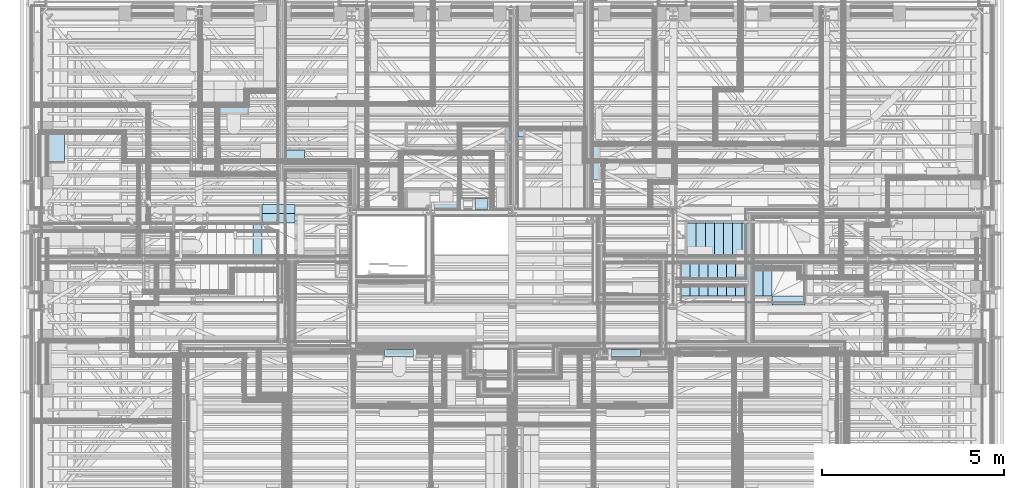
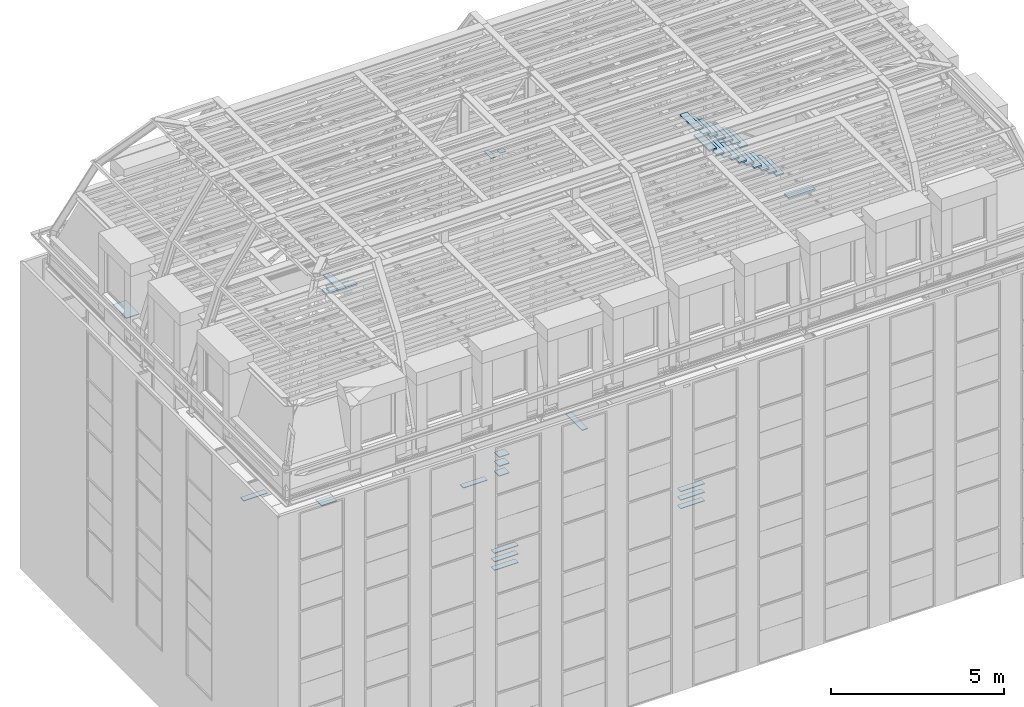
# One storey, part 97 of 183: 37 slabs.
"""IFC2X3 building model written with IfcOpenShell, lengths in metres."""

from ifc_helpers import new_model, entity, si_unit, converted_unit, derived_unit, money_unit, direction, frame, origin_with_axes, place, context, subcontext, project, spatial, faceted_brep, material, type_object, element, save


model = new_model("IFC2X3")

# Units and contexts
model_context = context("Model", 3, precision=1e-05, world=origin_with_axes(), true_north=direction((0.0, 1.0)))
body_context = subcontext(model_context, "Body", "Model", "MODEL_VIEW", scale=1.0)
ifc_project = project(units=[si_unit("LENGTHUNIT", "METRE"), si_unit("AREAUNIT", "SQUARE_METRE"), si_unit("VOLUMEUNIT", "CUBIC_METRE"), si_unit("ABSORBEDDOSEUNIT", "GRAY"), si_unit("AMOUNTOFSUBSTANCEUNIT", "MOLE"), si_unit("DOSEEQUIVALENTUNIT", "SIEVERT"), si_unit("ELECTRICCAPACITANCEUNIT", "FARAD"), si_unit("ELECTRICCHARGEUNIT", "COULOMB"), si_unit("ELECTRICCONDUCTANCEUNIT", "SIEMENS"), si_unit("ELECTRICCURRENTUNIT", "AMPERE"), si_unit("ELECTRICRESISTANCEUNIT", "OHM"), si_unit("ELECTRICVOLTAGEUNIT", "VOLT"), si_unit("ENERGYUNIT", "JOULE"), si_unit("FORCEUNIT", "NEWTON"), si_unit("FREQUENCYUNIT", "HERTZ"), si_unit("ILLUMINANCEUNIT", "LUX"), si_unit("INDUCTANCEUNIT", "HENRY"), si_unit("LUMINOUSFLUXUNIT", "LUMEN"), si_unit("LUMINOUSINTENSITYUNIT", "CANDELA"), si_unit("MAGNETICFLUXDENSITYUNIT", "TESLA"), si_unit("MAGNETICFLUXUNIT", "WEBER"), si_unit("MASSUNIT", "GRAM"), converted_unit("PLANEANGLEUNIT", "degree", entity("IfcReal", 0.0174532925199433), si_unit("PLANEANGLEUNIT", "RADIAN"), dimensions=[0, 0, 0, 0, 0, 0, 0]), si_unit("POWERUNIT", "WATT"), si_unit("PRESSUREUNIT", "PASCAL"), si_unit("RADIOACTIVITYUNIT", "BECQUEREL"), si_unit("SOLIDANGLEUNIT", "STERADIAN"), si_unit("THERMODYNAMICTEMPERATUREUNIT", "KELVIN"), si_unit("TIMEUNIT", "SECOND"), derived_unit("ACCELERATIONUNIT", [(si_unit("LENGTHUNIT", "METRE"), 1), (si_unit("TIMEUNIT", "SECOND"), -2)]), derived_unit("ANGULARVELOCITYUNIT", [(converted_unit("PLANEANGLEUNIT", "degree", entity("IfcReal", 0.0174532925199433), si_unit("PLANEANGLEUNIT", "RADIAN"), dimensions=[0, 0, 0, 0, 0, 0, 0]), 1), (si_unit("TIMEUNIT", "SECOND"), -1)]), derived_unit("CURVATUREUNIT", [(converted_unit("PLANEANGLEUNIT", "degree", entity("IfcReal", 0.0174532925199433), si_unit("PLANEANGLEUNIT", "RADIAN"), dimensions=[0, 0, 0, 0, 0, 0, 0]), 1), (si_unit("LENGTHUNIT", "METRE"), -1)]), derived_unit("DYNAMICVISCOSITYUNIT", [(si_unit("PRESSUREUNIT", "PASCAL"), 1), (si_unit("TIMEUNIT", "SECOND"), 1)]), derived_unit("HEATFLUXDENSITYUNIT", [(si_unit("POWERUNIT", "WATT"), 1), (si_unit("LENGTHUNIT", "METRE"), -2)]), derived_unit("HEATINGVALUEUNIT", [(si_unit("ENERGYUNIT", "JOULE"), 1), (si_unit("MASSUNIT", "GRAM"), -1)]), derived_unit("INTEGERCOUNTRATEUNIT", [(si_unit("TIMEUNIT", "SECOND"), -1)]), derived_unit("IONCONCENTRATIONUNIT", [(si_unit("MASSUNIT", "GRAM"), 1), (si_unit("VOLUMEUNIT", "CUBIC_METRE"), -1)]), derived_unit("ISOTHERMALMOISTURECAPACITYUNIT", [(si_unit("VOLUMEUNIT", "CUBIC_METRE"), 1), (si_unit("MASSUNIT", "GRAM"), -1)]), derived_unit("KINEMATICVISCOSITYUNIT", [(si_unit("AREAUNIT", "SQUARE_METRE"), 1), (si_unit("TIMEUNIT", "SECOND"), -1)]), derived_unit("LINEARFORCEUNIT", [(si_unit("FORCEUNIT", "NEWTON"), 1), (si_unit("LENGTHUNIT", "METRE"), -1)]), derived_unit("LINEARMOMENTUNIT", [(si_unit("FORCEUNIT", "NEWTON"), 1), (si_unit("LENGTHUNIT", "METRE"), -1)]), derived_unit("LINEARSTIFFNESSUNIT", [(si_unit("FORCEUNIT", "NEWTON"), 1), (si_unit("LENGTHUNIT", "METRE"), -1)]), derived_unit("LINEARVELOCITYUNIT", [(si_unit("LENGTHUNIT", "METRE"), 1), (si_unit("TIMEUNIT", "SECOND"), -1)]), derived_unit("LUMINOUSINTENSITYDISTRIBUTIONUNIT", [(si_unit("LUMINOUSINTENSITYUNIT", "CANDELA"), 1), (si_unit("LUMINOUSFLUXUNIT", "LUMEN"), -1)]), derived_unit("MASSDENSITYUNIT", [(si_unit("MASSUNIT", "GRAM"), 1), (si_unit("VOLUMEUNIT", "CUBIC_METRE"), -1)]), derived_unit("MASSFLOWRATEUNIT", [(si_unit("MASSUNIT", "GRAM"), 1), (si_unit("TIMEUNIT", "SECOND"), -1)]), derived_unit("MASSPERLENGTHUNIT", [(si_unit("MASSUNIT", "GRAM"), 1), (si_unit("LENGTHUNIT", "METRE"), -1)]), derived_unit("MODULUSOFELASTICITYUNIT", [(si_unit("FORCEUNIT", "NEWTON"), 1), (si_unit("AREAUNIT", "SQUARE_METRE"), -1)]), derived_unit("MODULUSOFLINEARSUBGRADEREACTIONUNIT", [(si_unit("FORCEUNIT", "NEWTON"), 1), (si_unit("LENGTHUNIT", "METRE"), -2)]), derived_unit("MODULUSOFROTATIONALSUBGRADEREACTIONUNIT", [(si_unit("FORCEUNIT", "NEWTON"), 1), (si_unit("LENGTHUNIT", "METRE"), 1)]), derived_unit("MODULUSOFSUBGRADEREACTIONUNIT", [(si_unit("FORCEUNIT", "NEWTON"), 1), (si_unit("VOLUMEUNIT", "CUBIC_METRE"), -1)]), derived_unit("MOISTUREDIFFUSIVITYUNIT", [(si_unit("VOLUMEUNIT", "CUBIC_METRE"), 1), (si_unit("TIMEUNIT", "SECOND"), -1)]), derived_unit("MOLECULARWEIGHTUNIT", [(si_unit("MASSUNIT", "GRAM"), 1), (si_unit("AMOUNTOFSUBSTANCEUNIT", "MOLE"), -1)]), derived_unit("PLANARFORCEUNIT", [(si_unit("FORCEUNIT", "NEWTON"), 1), (si_unit("LENGTHUNIT", "METRE"), -2)]), derived_unit("ROTATIONALFREQUENCYUNIT", [(si_unit("TIMEUNIT", "SECOND"), -1)]), derived_unit("ROTATIONALMASSUNIT", [(si_unit("MASSUNIT", "GRAM"), 1), (si_unit("LENGTHUNIT", "METRE"), 2)]), derived_unit("ROTATIONALSTIFFNESSUNIT", [(si_unit("FORCEUNIT", "NEWTON"), 1), (si_unit("LENGTHUNIT", "METRE"), 1), (converted_unit("PLANEANGLEUNIT", "degree", entity("IfcReal", 0.0174532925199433), si_unit("PLANEANGLEUNIT", "RADIAN"), dimensions=[0, 0, 0, 0, 0, 0, 0]), -1)]), derived_unit("SECTIONAREAINTEGRALUNIT", [(si_unit("LENGTHUNIT", "METRE"), 5)]), derived_unit("SECTIONMODULUSUNIT", [(si_unit("LENGTHUNIT", "METRE"), 3)]), derived_unit("SHEARMODULUSUNIT", [(si_unit("FORCEUNIT", "NEWTON"), 1), (si_unit("AREAUNIT", "SQUARE_METRE"), -1)]), derived_unit("SOUNDPOWERUNIT", [(si_unit("ENERGYUNIT", "JOULE"), 1), (si_unit("TIMEUNIT", "SECOND"), -1)]), derived_unit("SPECIFICHEATCAPACITYUNIT", [(si_unit("FORCEUNIT", "NEWTON"), 1), (si_unit("MASSUNIT", "GRAM"), -1), (si_unit("THERMODYNAMICTEMPERATUREUNIT", "KELVIN"), -1)]), derived_unit("TEMPERATUREGRADIENTUNIT", [(si_unit("THERMODYNAMICTEMPERATUREUNIT", "KELVIN"), 1), (si_unit("LENGTHUNIT", "METRE"), -1)]), derived_unit("THERMALADMITTANCEUNIT", [(si_unit("POWERUNIT", "WATT"), 1), (si_unit("AREAUNIT", "SQUARE_METRE"), -1), (si_unit("THERMODYNAMICTEMPERATUREUNIT", "KELVIN"), -1)]), derived_unit("THERMALCONDUCTANCEUNIT", [(si_unit("POWERUNIT", "WATT"), 1), (si_unit("LENGTHUNIT", "METRE"), -1), (si_unit("THERMODYNAMICTEMPERATUREUNIT", "KELVIN"), -1)]), derived_unit("THERMALEXPANSIONCOEFFICIENTUNIT", [(si_unit("THERMODYNAMICTEMPERATUREUNIT", "KELVIN"), -1)]), derived_unit("THERMALRESISTANCEUNIT", [(si_unit("AREAUNIT", "SQUARE_METRE"), 1), (si_unit("POWERUNIT", "WATT"), -1)]), derived_unit("THERMALTRANSMITTANCEUNIT", [(si_unit("POWERUNIT", "WATT"), 1), (si_unit("AREAUNIT", "SQUARE_METRE"), -1), (si_unit("THERMODYNAMICTEMPERATUREUNIT", "KELVIN"), -1)]), derived_unit("TORQUEUNIT", [(si_unit("FORCEUNIT", "NEWTON"), 1), (si_unit("LENGTHUNIT", "METRE"), 1)]), derived_unit("VAPORPERMEABILITYUNIT", [(si_unit("MASSUNIT", "GRAM"), 1), (si_unit("TIMEUNIT", "SECOND"), -1)]), derived_unit("VOLUMETRICFLOWRATEUNIT", [(si_unit("VOLUMEUNIT", "CUBIC_METRE"), 1), (si_unit("TIMEUNIT", "SECOND"), -1)]), derived_unit("WARPINGCONSTANTUNIT", [(si_unit("LENGTHUNIT", "METRE"), 6)]), derived_unit("WARPINGMOMENTUNIT", [(si_unit("FORCEUNIT", "NEWTON"), 1), (si_unit("LENGTHUNIT", "METRE"), 2)]), money_unit("GBP")], contexts=[model_context])

# Site, building, storey
site_placement = place(None, origin_with_axes())
site = spatial("IfcSite", under=ifc_project, at=site_placement, Name="Site", CompositionType="ELEMENT")
building_placement = place(site_placement, origin_with_axes())
building = spatial("IfcBuilding", under=site, at=building_placement, Name="Building01", CompositionType="ELEMENT")
storey_placement = place(building_placement, frame((0.0, 0.0, 5.15), z_axis=(0.0, 0.0, 1.0), x_axis=(1.0, 0.0, 0.0)))
storey = spatial("IfcBuildingStorey", under=building, at=storey_placement, Name="1F", CompositionType="ELEMENT", Elevation=5.15)

# Slabs
ifc_material_1 = material(Name="A_BSUK_Ceramic_WallTiles")
slab_type = type_object("IfcSlabType", Name="A-FloorsSlabs A_BSUK_Slabs", PredefinedType="FLOOR")
for number, where, z_axis, x_axis, name in (
    (1, (17.0075, 4.779998, 1.375), (0.0, 0.0, 1.0), (1.0, 0.0, 0.0), "A-FloorsSlabs A_BSUK_Slabs"),
    (2, (17.0075, 4.779998, 1.675), (0.0, 0.0, 1.0), (1.0, 0.0, 0.0), "A-FloorsSlabs A_BSUK_Slabs"),
    (3, (17.0075, 4.779998, 1.975), (0.0, 0.0, 1.0), (1.0, 0.0, 0.0), "A-FloorsSlabs A_BSUK_Slabs"),
):
    element("IfcSlab", number, at=place(storey_placement, frame(where, z_axis=z_axis, x_axis=x_axis)), inside=storey, type_object=slab_type, material=ifc_material_1, Name=name, ObjectType="A-FloorsSlabs A_BSUK_Slabs", context=body_context, shape_type="Brep", body=[
        faceted_brep([(0.0, 0.200002, 0.0), (0.0, 0.200002, 0.025), (0.0, 0.0, 0.025), (0.0, 0.0, 0.0), (-0.8, 3e-06, 0.025), (-0.8, 3e-06, 0.0), (-0.799999, 0.200002, 0.025), (-0.799999, 0.200002, 0.0)], [[[0, 1, 2, 3]], [[3, 2, 4, 5]], [[5, 4, 6, 7]], [[7, 6, 1, 0]], [[1, 6, 4, 2]], [[3, 5, 7, 0]]]),
    ])
for number, where, z_axis, x_axis, name in (
    (4, (9.992536, 4.779998, 1.375), (0.0, 0.0, 1.0), (1.0, 0.0, 0.0), "A-FloorsSlabs A_BSUK_Slabs"),
    (5, (9.992536, 4.779998, 1.675), (0.0, 0.0, 1.0), (1.0, 0.0, 0.0), "A-FloorsSlabs A_BSUK_Slabs"),
    (6, (9.992536, 4.779998, 1.975), (0.0, 0.0, 1.0), (1.0, 0.0, 0.0), "A-FloorsSlabs A_BSUK_Slabs"),
):
    element("IfcSlab", number, at=place(storey_placement, frame(where, z_axis=z_axis, x_axis=x_axis)), inside=storey, type_object=slab_type, material=ifc_material_1, Name=name, ObjectType="A-FloorsSlabs A_BSUK_Slabs", context=body_context, shape_type="Brep", body=[
        faceted_brep([(0.0, 0.0, 0.0), (0.0, 0.0, 0.025), (0.0, 0.200002, 0.025), (0.0, 0.200002, 0.0), (0.8, 3e-06, 0.0), (0.8, 3e-06, 0.025), (0.799999, 0.200002, 0.0), (0.799999, 0.200002, 0.025)], [[[0, 1, 2, 3]], [[4, 5, 1, 0]], [[6, 7, 5, 4]], [[3, 2, 7, 6]], [[1, 5, 7, 2]], [[3, 6, 4, 0]]]),
    ])
placement = place(storey_placement, frame((0.0, 0.0, -5.15), z_axis=(0.0, 0.0, 1.0), x_axis=(1.0, 0.0, 0.0)))
element("IfcSlab", 7, at=placement, inside=storey, type_object=slab_type, material=ifc_material_1, Name="A-FloorsSlabs A_BSUK_Slabs", ObjectType="CompoundSlabLeaf", context=body_context, shape_type="Brep", body=[
    faceted_brep([(12.088871, 9.02, 6.525), (12.088871, 9.02, 6.55), (12.088871, 8.82, 6.55), (12.088871, 8.82, 6.525), (11.288873, 9.019997, 6.525), (11.288873, 9.019997, 6.55), (11.288874, 8.82, 6.525), (11.288874, 8.82, 6.55)], [[[0, 1, 2, 3]], [[4, 5, 1, 0]], [[6, 7, 5, 4]], [[3, 2, 7, 6]], [[1, 5, 7, 2]], [[3, 6, 4, 0]]]),
])
element("IfcSlab", 8, at=placement, inside=storey, type_object=slab_type, material=ifc_material_1, Name="A-FloorsSlabs A_BSUK_Slabs", ObjectType="CompoundSlabLeaf", context=body_context, shape_type="Brep", body=[
    faceted_brep([(12.478585, 8.82, 6.525), (12.478585, 8.82, 6.55), (12.478585, 9.12, 6.55), (12.478585, 9.12, 6.525), (12.828585, 8.82, 6.525), (12.828585, 8.82, 6.55), (12.828585, 9.12, 6.525), (12.828585, 9.12, 6.55)], [[[0, 1, 2, 3]], [[4, 5, 1, 0]], [[6, 7, 5, 4]], [[3, 2, 7, 6]], [[1, 5, 7, 2]], [[3, 6, 4, 0]]]),
])
element("IfcSlab", 9, at=placement, inside=storey, type_object=slab_type, material=ifc_material_1, Name="A-FloorsSlabs A_BSUK_Slabs", ObjectType="CompoundSlabLeaf", context=body_context, shape_type="Brep", body=[
    faceted_brep([(12.478585, 8.82, 7.19), (12.478585, 8.82, 7.215), (12.478585, 9.12, 7.215), (12.478585, 9.12, 7.19), (12.828585, 8.82, 7.19), (12.828585, 8.82, 7.215), (12.828585, 9.12, 7.19), (12.828585, 9.12, 7.215)], [[[0, 1, 2, 3]], [[4, 5, 1, 0]], [[6, 7, 5, 4]], [[3, 2, 7, 6]], [[1, 5, 7, 2]], [[3, 6, 4, 0]]]),
])
element("IfcSlab", 10, at=placement, inside=storey, type_object=slab_type, material=ifc_material_1, Name="A-FloorsSlabs A_BSUK_Slabs", ObjectType="CompoundSlabLeaf", context=body_context, shape_type="Brep", body=[
    faceted_brep([(12.478585, 8.82, 6.869973), (12.478585, 8.82, 6.894973), (12.478585, 9.12, 6.894973), (12.478585, 9.12, 6.869973), (12.828585, 8.82, 6.869973), (12.828585, 8.82, 6.894973), (12.828585, 9.12, 6.869973), (12.828585, 9.12, 6.894973)], [[[0, 1, 2, 3]], [[4, 5, 1, 0]], [[6, 7, 5, 4]], [[3, 2, 7, 6]], [[1, 5, 7, 2]], [[3, 6, 4, 0]]]),
])
element("IfcSlab", 11, at=placement, inside=storey, type_object=slab_type, material=ifc_material_1, Name="A-FloorsSlabs A_BSUK_Slabs", ObjectType="CompoundSlabLeaf", context=body_context, shape_type="Brep", body=[
    faceted_brep([(15.908132, 9.62, 6.525), (15.908132, 9.62, 6.55), (15.708132, 9.62, 6.55), (15.708132, 9.62, 6.525), (15.908132, 10.57, 6.525), (15.908132, 10.57, 6.55), (15.708132, 10.57, 6.525), (15.708132, 10.57, 6.55)], [[[0, 1, 2, 3]], [[4, 5, 1, 0]], [[6, 7, 5, 4]], [[3, 2, 7, 6]], [[1, 5, 7, 2]], [[3, 6, 4, 0]]]),
])
element("IfcSlab", 12, at=placement, inside=storey, type_object=slab_type, material=ifc_material_1, Name="A-FloorsSlabs A_BSUK_Slabs", ObjectType="CompoundSlabLeaf", context=body_context, shape_type="Brep", body=[
    faceted_brep([(5.464669, 11.43067, 6.525), (5.464669, 11.43067, 6.55), (5.464669, 11.63067, 6.55), (5.464669, 11.63067, 6.525), (6.264669, 11.430672, 6.525), (6.264669, 11.430672, 6.55), (6.264669, 11.63067, 6.525), (6.264669, 11.63067, 6.55)], [[[0, 1, 2, 3]], [[4, 5, 1, 0]], [[6, 7, 5, 4]], [[3, 2, 7, 6]], [[1, 5, 7, 2]], [[3, 6, 4, 0]]]),
])
element("IfcSlab", 13, at=placement, inside=storey, type_object=slab_type, material=ifc_material_1, Name="A-FloorsSlabs A_BSUK_Slabs", ObjectType="CompoundSlabLeaf", context=body_context, shape_type="Brep", body=[
    faceted_brep([(7.804669, 10.453124, 6.525), (7.804669, 10.453124, 6.55), (7.804669, 10.087704, 6.55), (7.804669, 10.087704, 6.525), (7.289669, 10.453124, 6.525), (7.289669, 10.453124, 6.55), (7.289669, 10.087704, 6.525), (7.289669, 10.087704, 6.55)], [[[0, 1, 2, 3]], [[4, 5, 1, 0]], [[6, 7, 5, 4]], [[3, 2, 7, 6]], [[1, 5, 7, 2]], [[3, 6, 4, 0]]]),
])
element("IfcSlab", 14, at=placement, inside=storey, type_object=slab_type, material=ifc_material_1, Name="A-FloorsSlabs A_BSUK_Slabs", ObjectType="CompoundSlabLeaf", context=body_context, shape_type="Brep", body=[
    faceted_brep([(13.44999, 10.698806, 16.305), (13.44999, 10.698806, 16.33), (13.29737, 10.698806, 16.33), (13.29737, 10.698806, 16.305), (13.44999, 11.103849, 16.305), (13.44999, 11.103849, 16.33), (13.29736, 11.103855, 16.305), (13.29736, 11.103855, 16.33)], [[[0, 1, 2, 3]], [[4, 5, 1, 0]], [[6, 7, 5, 4]], [[3, 2, 7, 6]], [[1, 5, 7, 2]], [[3, 6, 4, 0]]]),
])
element("IfcSlab", 15, at=placement, inside=storey, type_object=slab_type, material=ifc_material_1, Name="A-FloorsSlabs A_BSUK_Slabs", ObjectType="CompoundSlabLeaf", context=body_context, shape_type="Brep", body=[
    faceted_brep([(13.849998, 10.803883, 16.305), (13.849998, 10.803883, 16.33), (13.65, 10.803883, 16.33), (13.65, 10.803883, 16.305), (13.849998, 10.983789, 16.305), (13.849998, 10.983789, 16.33), (13.65, 10.983789, 16.305), (13.65, 10.983789, 16.33)], [[[0, 1, 2, 3]], [[4, 5, 1, 0]], [[6, 7, 5, 4]], [[3, 2, 7, 6]], [[1, 5, 7, 2]], [[3, 6, 4, 0]]]),
])
element("IfcSlab", 16, at=placement, inside=storey, type_object=slab_type, material=ifc_material_1, Name="A-FloorsSlabs A_BSUK_Slabs", ObjectType="CompoundSlabLeaf", context=body_context, shape_type="Brep", body=[
    faceted_brep([(1.22, 10.114939, 15.405), (1.22, 10.114939, 15.43), (0.779939, 10.114939, 15.43), (0.779939, 10.114939, 15.405), (1.22, 10.899939, 15.405), (1.22, 10.899939, 15.43), (0.779939, 10.899939, 15.405), (0.779939, 10.899939, 15.43)], [[[0, 1, 2, 3]], [[4, 5, 1, 0]], [[6, 7, 5, 4]], [[3, 2, 7, 6]], [[1, 5, 7, 2]], [[3, 6, 4, 0]]]),
])
ifc_material_2 = material(Name="A_BSUK_Slabs")
element("IfcSlab", 17, at=placement, inside=storey, type_object=slab_type, material=ifc_material_2, Name="A-FloorsSlabs A_BSUK_Slabs", ObjectType="CompoundSlabLeaf", context=body_context, shape_type="Brep", body=[
    faceted_brep([(6.64, 7.549939, 15.96), (6.64, 7.549939, 16.01), (6.39, 7.549939, 16.01), (6.39, 7.549939, 15.96), (6.64, 8.449939, 15.96), (6.64, 8.449939, 16.01), (6.39, 8.449939, 15.96), (6.39, 8.449939, 16.01)], [[[0, 1, 2, 3]], [[4, 5, 1, 0]], [[6, 7, 5, 4]], [[3, 2, 7, 6]], [[1, 5, 7, 2]], [[3, 6, 4, 0]]]),
])
element("IfcSlab", 18, at=placement, inside=storey, type_object=slab_type, material=ifc_material_2, Name="A-FloorsSlabs A_BSUK_Slabs", ObjectType="CompoundSlabLeaf", context=body_context, shape_type="Brep", body=[
    faceted_brep([(6.64, 8.449939, 15.24), (6.64, 8.449939, 15.29), (6.64, 8.699939, 15.29), (6.64, 8.699939, 15.24), (7.54, 8.449939, 15.24), (7.54, 8.449939, 15.29), (7.54, 8.699939, 15.24), (7.54, 8.699939, 15.29)], [[[0, 1, 2, 3]], [[4, 5, 1, 0]], [[6, 7, 5, 4]], [[3, 2, 7, 6]], [[1, 5, 7, 2]], [[3, 6, 4, 0]]]),
])
element("IfcSlab", 19, at=placement, inside=storey, type_object=slab_type, material=ifc_material_2, Name="A-FloorsSlabs A_BSUK_Slabs", ObjectType="CompoundSlabLeaf", context=body_context, shape_type="Brep", body=[
    faceted_brep([(6.64, 8.699939, 15.06), (6.64, 8.699939, 15.11), (6.64, 8.949939, 15.11), (6.64, 8.949939, 15.06), (7.54, 8.699939, 15.06), (7.54, 8.699939, 15.11), (7.54, 8.949939, 15.06), (7.54, 8.949939, 15.11)], [[[0, 1, 2, 3]], [[4, 5, 1, 0]], [[6, 7, 5, 4]], [[3, 2, 7, 6]], [[1, 5, 7, 2]], [[3, 6, 4, 0]]]),
])
element("IfcSlab", 20, at=placement, inside=storey, type_object=slab_type, material=ifc_material_2, Name="A-FloorsSlabs A_BSUK_Slabs", ObjectType="CompoundSlabLeaf", context=body_context, shape_type="Brep", body=[
    faceted_brep([(18.11844, 7.349939, 17.45), (18.11844, 7.349939, 17.5), (18.36844, 7.349939, 17.5), (18.36844, 7.349939, 17.45), (18.11844, 6.449939, 17.45), (18.11844, 6.449939, 17.5), (18.36844, 6.449939, 17.45), (18.36844, 6.449939, 17.5)], [[[0, 1, 2, 3]], [[4, 5, 1, 0]], [[6, 7, 5, 4]], [[3, 2, 7, 6]], [[1, 5, 7, 2]], [[3, 6, 4, 0]]]),
])
element("IfcSlab", 21, at=placement, inside=storey, type_object=slab_type, material=ifc_material_2, Name="A-FloorsSlabs A_BSUK_Slabs", ObjectType="CompoundSlabLeaf", context=body_context, shape_type="Brep", body=[
    faceted_brep([(18.36844, 7.349939, 17.22), (18.36844, 7.349939, 17.27), (18.61844, 7.349939, 17.27), (18.61844, 7.349939, 17.22), (18.36844, 6.449939, 17.22), (18.36844, 6.449939, 17.27), (18.61844, 6.449939, 17.22), (18.61844, 6.449939, 17.27)], [[[0, 1, 2, 3]], [[4, 5, 1, 0]], [[6, 7, 5, 4]], [[3, 2, 7, 6]], [[1, 5, 7, 2]], [[3, 6, 4, 0]]]),
])
element("IfcSlab", 22, at=placement, inside=storey, type_object=slab_type, material=ifc_material_2, Name="A-FloorsSlabs A_BSUK_Slabs", ObjectType="CompoundSlabLeaf", context=body_context, shape_type="Brep", body=[
    faceted_brep([(18.61844, 7.349939, 17.04), (18.61844, 7.349939, 17.09), (18.86844, 7.349939, 17.09), (18.86844, 7.349939, 17.04), (18.61844, 6.449939, 17.04), (18.61844, 6.449939, 17.09), (18.86844, 6.449939, 17.04), (18.86844, 6.449939, 17.09)], [[[0, 1, 2, 3]], [[4, 5, 1, 0]], [[6, 7, 5, 4]], [[3, 2, 7, 6]], [[1, 5, 7, 2]], [[3, 6, 4, 0]]]),
])
element("IfcSlab", 23, at=placement, inside=storey, type_object=slab_type, material=ifc_material_2, Name="A-FloorsSlabs A_BSUK_Slabs", ObjectType="CompoundSlabLeaf", context=body_context, shape_type="Brep", body=[
    faceted_brep([(18.86844, 7.349939, 16.86), (18.86844, 7.349939, 16.91), (19.11844, 7.349939, 16.91), (19.11844, 7.349939, 16.86), (18.86844, 6.449939, 16.86), (18.86844, 6.449939, 16.91), (19.11844, 6.449939, 16.86), (19.11844, 6.449939, 16.91)], [[[0, 1, 2, 3]], [[4, 5, 1, 0]], [[6, 7, 5, 4]], [[3, 2, 7, 6]], [[1, 5, 7, 2]], [[3, 6, 4, 0]]]),
])
element("IfcSlab", 24, at=placement, inside=storey, type_object=slab_type, material=ifc_material_2, Name="A-FloorsSlabs A_BSUK_Slabs", ObjectType="CompoundSlabLeaf", context=body_context, shape_type="Brep", body=[
    faceted_brep([(19.11844, 7.349939, 16.68), (19.11844, 7.349939, 16.73), (19.36844, 7.349939, 16.73), (19.36844, 7.349939, 16.68), (19.11844, 6.449939, 16.68), (19.11844, 6.449939, 16.73), (19.36844, 6.449939, 16.68), (19.36844, 6.449939, 16.73)], [[[0, 1, 2, 3]], [[4, 5, 1, 0]], [[6, 7, 5, 4]], [[3, 2, 7, 6]], [[1, 5, 7, 2]], [[3, 6, 4, 0]]]),
])
element("IfcSlab", 25, at=placement, inside=storey, type_object=slab_type, material=ifc_material_2, Name="A-FloorsSlabs A_BSUK_Slabs", ObjectType="CompoundSlabLeaf", context=body_context, shape_type="Brep", body=[
    faceted_brep([(19.36844, 7.349939, 16.5), (19.36844, 7.349939, 16.55), (19.61844, 7.349939, 16.55), (19.61844, 7.349939, 16.5), (19.36844, 6.449939, 16.5), (19.36844, 6.449939, 16.55), (19.61844, 6.449939, 16.5), (19.61844, 6.449939, 16.55)], [[[0, 1, 2, 3]], [[4, 5, 1, 0]], [[6, 7, 5, 4]], [[3, 2, 7, 6]], [[1, 5, 7, 2]], [[3, 6, 4, 0]]]),
])
element("IfcSlab", 26, at=placement, inside=storey, type_object=slab_type, material=ifc_material_2, Name="A-FloorsSlabs A_BSUK_Slabs", ObjectType="CompoundSlabLeaf", context=body_context, shape_type="Brep", body=[
    faceted_brep([(19.61844, 7.349939, 16.32), (19.61844, 7.349939, 16.37), (19.86844, 7.349939, 16.37), (19.86844, 7.349939, 16.32), (19.61844, 6.449939, 16.32), (19.61844, 6.449939, 16.37), (19.86844, 6.449939, 16.32), (19.86844, 6.449939, 16.37)], [[[0, 1, 2, 3]], [[4, 5, 1, 0]], [[6, 7, 5, 4]], [[3, 2, 7, 6]], [[1, 5, 7, 2]], [[3, 6, 4, 0]]]),
])
element("IfcSlab", 27, at=placement, inside=storey, type_object=slab_type, material=ifc_material_2, Name="A-FloorsSlabs A_BSUK_Slabs", ObjectType="CompoundSlabLeaf", context=body_context, shape_type="Brep", body=[
    faceted_brep([(19.86844, 7.349939, 16.14), (19.86844, 7.349939, 16.19), (20.11844, 7.349939, 16.19), (20.11844, 7.349939, 16.14), (19.86844, 6.449939, 16.14), (19.86844, 6.449939, 16.19), (20.11844, 6.449939, 16.14), (20.11844, 6.449939, 16.19)], [[[0, 1, 2, 3]], [[4, 5, 1, 0]], [[6, 7, 5, 4]], [[3, 2, 7, 6]], [[1, 5, 7, 2]], [[3, 6, 4, 0]]]),
])
element("IfcSlab", 28, at=placement, inside=storey, type_object=slab_type, material=ifc_material_2, Name="A-FloorsSlabs A_BSUK_Slabs", ObjectType="CompoundSlabLeaf", context=body_context, shape_type="Brep", body=[
    faceted_brep([(20.11844, 7.349939, 15.96), (20.11844, 7.349939, 16.01), (20.36844, 7.349939, 16.01), (20.36844, 7.349939, 15.96), (20.11844, 6.449939, 15.96), (20.11844, 6.449939, 16.01), (20.36844, 6.449939, 15.96), (20.36844, 6.449939, 16.01)], [[[0, 1, 2, 3]], [[4, 5, 1, 0]], [[6, 7, 5, 4]], [[3, 2, 7, 6]], [[1, 5, 7, 2]], [[3, 6, 4, 0]]]),
])
element("IfcSlab", 29, at=placement, inside=storey, type_object=slab_type, material=ifc_material_2, Name="A-FloorsSlabs A_BSUK_Slabs", ObjectType="CompoundSlabLeaf", context=body_context, shape_type="Brep", body=[
    faceted_brep([(20.36844, 7.349939, 15.78), (20.36844, 7.349939, 15.83), (20.61844, 7.349939, 15.83), (20.61844, 7.349939, 15.78), (20.36844, 6.449939, 15.78), (20.36844, 6.449939, 15.83), (20.61844, 6.449939, 15.78), (20.61844, 6.449939, 15.83)], [[[0, 1, 2, 3]], [[4, 5, 1, 0]], [[6, 7, 5, 4]], [[3, 2, 7, 6]], [[1, 5, 7, 2]], [[3, 6, 4, 0]]]),
])
element("IfcSlab", 30, at=placement, inside=storey, type_object=slab_type, material=ifc_material_2, Name="A-FloorsSlabs A_BSUK_Slabs", ObjectType="CompoundSlabLeaf", context=body_context, shape_type="Brep", body=[
    faceted_brep([(20.61844, 6.199939, 15.06), (20.61844, 6.199939, 15.11), (20.61844, 6.449939, 15.11), (20.61844, 6.449939, 15.06), (21.51844, 6.199939, 15.06), (21.51844, 6.199939, 15.11), (21.51844, 6.449939, 15.06), (21.51844, 6.449939, 15.11)], [[[0, 1, 2, 3]], [[4, 5, 1, 0]], [[6, 7, 5, 4]], [[3, 2, 7, 6]], [[1, 5, 7, 2]], [[3, 6, 4, 0]]]),
])
element("IfcSlab", 31, at=placement, inside=storey, type_object=slab_type, material=ifc_material_2, Name="A-FloorsSlabs A_BSUK_Slabs", ObjectType="CompoundSlabLeaf", context=body_context, shape_type="Brep", body=[
    faceted_brep([(18.789976, 7.549915, 17.22), (18.789976, 7.549915, 17.27), (18.539976, 7.549915, 17.27), (18.539976, 7.549915, 17.22), (18.789976, 8.449915, 17.22), (18.789976, 8.449915, 17.27), (18.539976, 8.449915, 17.22), (18.539976, 8.449915, 17.27)], [[[0, 1, 2, 3]], [[4, 5, 1, 0]], [[6, 7, 5, 4]], [[3, 2, 7, 6]], [[1, 5, 7, 2]], [[3, 6, 4, 0]]]),
])
element("IfcSlab", 32, at=placement, inside=storey, type_object=slab_type, material=ifc_material_2, Name="A-FloorsSlabs A_BSUK_Slabs", ObjectType="CompoundSlabLeaf", context=body_context, shape_type="Brep", body=[
    faceted_brep([(19.039976, 7.549915, 17.04), (19.039976, 7.549915, 17.09), (18.789976, 7.549915, 17.09), (18.789976, 7.549915, 17.04), (19.039976, 8.449915, 17.04), (19.039976, 8.449915, 17.09), (18.789976, 8.449915, 17.04), (18.789976, 8.449915, 17.09)], [[[0, 1, 2, 3]], [[4, 5, 1, 0]], [[6, 7, 5, 4]], [[3, 2, 7, 6]], [[1, 5, 7, 2]], [[3, 6, 4, 0]]]),
])
element("IfcSlab", 33, at=placement, inside=storey, type_object=slab_type, material=ifc_material_2, Name="A-FloorsSlabs A_BSUK_Slabs", ObjectType="CompoundSlabLeaf", context=body_context, shape_type="Brep", body=[
    faceted_brep([(19.289976, 7.549915, 16.86), (19.289976, 7.549915, 16.91), (19.039976, 7.549915, 16.91), (19.039976, 7.549915, 16.86), (19.289976, 8.449915, 16.86), (19.289976, 8.449915, 16.91), (19.039976, 8.449915, 16.86), (19.039976, 8.449915, 16.91)], [[[0, 1, 2, 3]], [[4, 5, 1, 0]], [[6, 7, 5, 4]], [[3, 2, 7, 6]], [[1, 5, 7, 2]], [[3, 6, 4, 0]]]),
])
element("IfcSlab", 34, at=placement, inside=storey, type_object=slab_type, material=ifc_material_2, Name="A-FloorsSlabs A_BSUK_Slabs", ObjectType="CompoundSlabLeaf", context=body_context, shape_type="Brep", body=[
    faceted_brep([(19.539976, 7.549915, 16.68), (19.539976, 7.549915, 16.73), (19.289976, 7.549915, 16.73), (19.289976, 7.549915, 16.68), (19.539976, 8.449915, 16.68), (19.539976, 8.449915, 16.73), (19.289976, 8.449915, 16.68), (19.289976, 8.449915, 16.73)], [[[0, 1, 2, 3]], [[4, 5, 1, 0]], [[6, 7, 5, 4]], [[3, 2, 7, 6]], [[1, 5, 7, 2]], [[3, 6, 4, 0]]]),
])
element("IfcSlab", 35, at=placement, inside=storey, type_object=slab_type, material=ifc_material_2, Name="A-FloorsSlabs A_BSUK_Slabs", ObjectType="CompoundSlabLeaf", context=body_context, shape_type="Brep", body=[
    faceted_brep([(19.789976, 7.549915, 16.5), (19.789976, 7.549915, 16.55), (19.539976, 7.549915, 16.55), (19.539976, 7.549915, 16.5), (19.789976, 8.449915, 16.5), (19.789976, 8.449915, 16.55), (19.539976, 8.449915, 16.5), (19.539976, 8.449915, 16.55)], [[[0, 1, 2, 3]], [[4, 5, 1, 0]], [[6, 7, 5, 4]], [[3, 2, 7, 6]], [[1, 5, 7, 2]], [[3, 6, 4, 0]]]),
])
element("IfcSlab", 36, at=placement, inside=storey, type_object=slab_type, material=ifc_material_2, Name="A-FloorsSlabs A_BSUK_Slabs", ObjectType="CompoundSlabLeaf", context=body_context, shape_type="Brep", body=[
    faceted_brep([(20.039976, 7.549915, 16.32), (20.039976, 7.549915, 16.37), (19.789976, 7.549915, 16.37), (19.789976, 7.549915, 16.32), (20.039976, 8.449915, 16.32), (20.039976, 8.449915, 16.37), (19.789976, 8.449915, 16.32), (19.789976, 8.449915, 16.37)], [[[0, 1, 2, 3]], [[4, 5, 1, 0]], [[6, 7, 5, 4]], [[3, 2, 7, 6]], [[1, 5, 7, 2]], [[3, 6, 4, 0]]]),
])
element("IfcSlab", 37, at=placement, inside=storey, type_object=slab_type, material=ifc_material_2, Name="A-FloorsSlabs A_BSUK_Slabs", ObjectType="CompoundSlabLeaf", context=body_context, shape_type="Brep", body=[
    faceted_brep([(18.539976, 7.549915, 17.45), (18.539976, 7.549915, 17.5), (18.289976, 7.549915, 17.5), (18.289976, 7.549915, 17.45), (18.539976, 8.449915, 17.45), (18.539976, 8.449915, 17.5), (18.289976, 8.449915, 17.45), (18.289976, 8.449915, 17.5)], [[[0, 1, 2, 3]], [[4, 5, 1, 0]], [[6, 7, 5, 4]], [[3, 2, 7, 6]], [[1, 5, 7, 2]], [[3, 6, 4, 0]]]),
])

save(model, "model.ifc")
